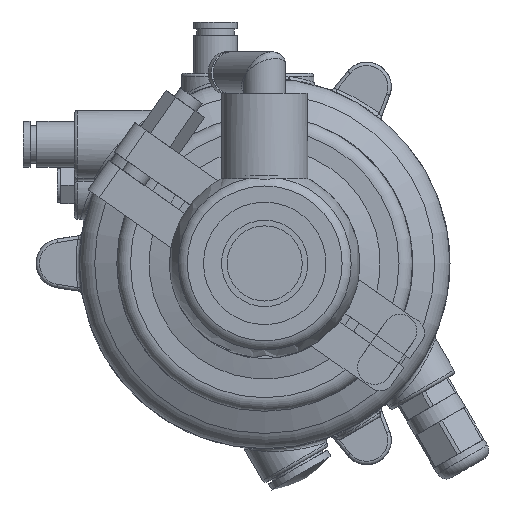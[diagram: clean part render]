
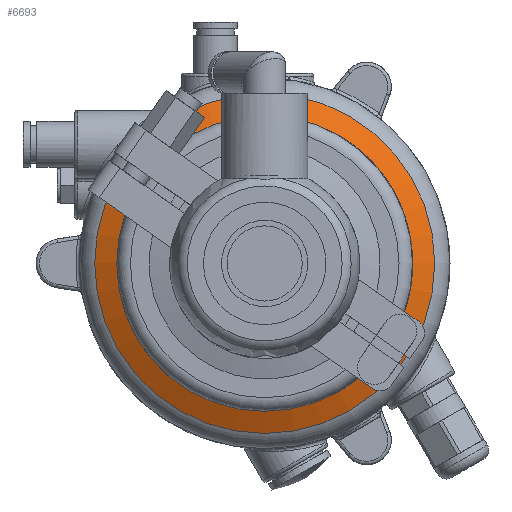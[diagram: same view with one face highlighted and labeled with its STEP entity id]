
A CAD part, front view. The second image highlights one B-rep face of the part: STEP entity #6693.
In plain terms, the highlighted conical face has half-angle 64 degrees and reference radius 36 mm.
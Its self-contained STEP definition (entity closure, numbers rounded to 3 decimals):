
#464 = AXIS2_PLACEMENT_3D ( 'NONE', #16511, #30135, #7675 ) ;
#571 = CARTESIAN_POINT ( 'NONE',  ( 0., 6.832, -50.007 ) ) ;
#3960 = EDGE_CURVE ( 'NONE', #5444, #5444, #52754, .T. ) ;
#5444 = VERTEX_POINT ( 'NONE', #571 ) ;
#6693 = ADVANCED_FACE ( 'NONE', ( #45852, #50713 ), #10438, .T. ) ;
#7675 = DIRECTION ( 'NONE',  ( 0., 0., -1. ) ) ;
#10438 = CONICAL_SURFACE ( 'NONE', #18242, 36., 1.117 ) ;
#14021 = DIRECTION ( 'NONE',  ( 0., 0., 1. ) ) ;
#14612 = DIRECTION ( 'NONE',  ( 0., 1., 0. ) ) ;
#16511 = CARTESIAN_POINT ( 'NONE',  ( 0., 6.832, 0. ) ) ;
#18242 = AXIS2_PLACEMENT_3D ( 'NONE', #18323, #14612, #14021 ) ;
#18323 = CARTESIAN_POINT ( 'NONE',  ( 0., 0., 0. ) ) ;
#23426 = CIRCLE ( 'NONE', #27336, 36. ) ;
#23609 = EDGE_LOOP ( 'NONE', ( #52152 ) ) ;
#26593 = DIRECTION ( 'NONE',  ( 0., 0., -1. ) ) ;
#27336 = AXIS2_PLACEMENT_3D ( 'NONE', #31166, #49601, #26593 ) ;
#30135 = DIRECTION ( 'NONE',  ( 0., -1., 0. ) ) ;
#31166 = CARTESIAN_POINT ( 'NONE',  ( 0., 0., 0. ) ) ;
#33754 = CARTESIAN_POINT ( 'NONE',  ( 0., 0., -36. ) ) ;
#43389 = VERTEX_POINT ( 'NONE', #33754 ) ;
#45852 = FACE_OUTER_BOUND ( 'NONE', #23609, .T. ) ;
#47676 = EDGE_LOOP ( 'NONE', ( #56157 ) ) ;
#49601 = DIRECTION ( 'NONE',  ( 0., -1., 0. ) ) ;
#50713 = FACE_BOUND ( 'NONE', #47676, .T. ) ;
#52152 = ORIENTED_EDGE ( 'NONE', *, *, #3960, .T. ) ;
#52754 = CIRCLE ( 'NONE', #464, 50.007 ) ;
#53446 = EDGE_CURVE ( 'NONE', #43389, #43389, #23426, .T. ) ;
#56157 = ORIENTED_EDGE ( 'NONE', *, *, #53446, .F. ) ;
